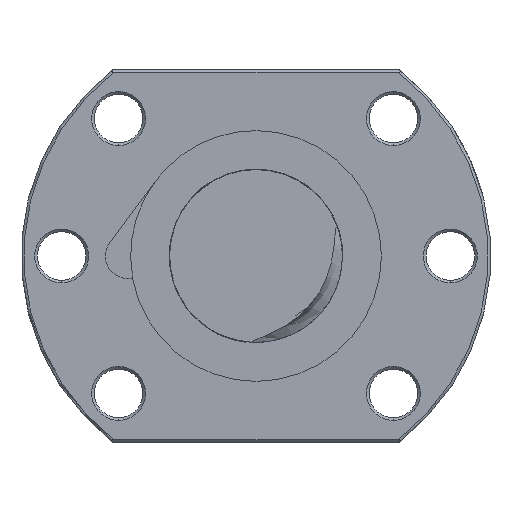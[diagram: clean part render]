
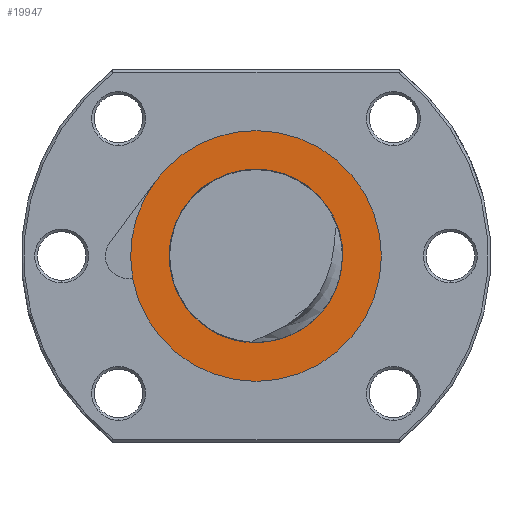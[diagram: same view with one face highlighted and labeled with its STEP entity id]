
A CAD part, left-side view. The second image highlights one B-rep face of the part: STEP entity #19947.
In plain terms, the highlighted planar face has unit normal (-1, 0, 0).
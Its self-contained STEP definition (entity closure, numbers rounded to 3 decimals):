
#19546 = VERTEX_POINT ( 'NONE', #21316 ) ;
#19548 = EDGE_CURVE ( 'NONE', #19546, #19549, #21315, .T. ) ;
#19549 = VERTEX_POINT ( 'NONE', #21355 ) ;
#19631 = EDGE_CURVE ( 'NONE', #19648, #19632, #21551, .T. ) ;
#19632 = VERTEX_POINT ( 'NONE', #21547 ) ;
#19646 = EDGE_CURVE ( 'NONE', #19647, #19648, #21588, .T. ) ;
#19647 = VERTEX_POINT ( 'NONE', #21583 ) ;
#19648 = VERTEX_POINT ( 'NONE', #21582 ) ;
#19814 = EDGE_CURVE ( 'NONE', #19815, #19647, #21860, .T. ) ;
#19815 = VERTEX_POINT ( 'NONE', #21856 ) ;
#19871 = ORIENTED_EDGE ( 'NONE', *, *, #19872, .F. ) ;
#19872 = EDGE_CURVE ( 'NONE', #19887, #19546, #21959, .T. ) ;
#19873 = ORIENTED_EDGE ( 'NONE', *, *, #19886, .F. ) ;
#19874 = EDGE_LOOP ( 'NONE', ( #19875, #19877, #19932, #19933 ) ) ;
#19875 = ORIENTED_EDGE ( 'NONE', *, *, #19876, .T. ) ;
#19876 = EDGE_CURVE ( 'NONE', #19632, #19815, #21987, .T. ) ;
#19877 = ORIENTED_EDGE ( 'NONE', *, *, #19814, .T. ) ;
#19886 = EDGE_CURVE ( 'NONE', #19549, #19887, #22048, .T. ) ;
#19887 = VERTEX_POINT ( 'NONE', #22049 ) ;
#19932 = ORIENTED_EDGE ( 'NONE', *, *, #19646, .T. ) ;
#19933 = ORIENTED_EDGE ( 'NONE', *, *, #19631, .T. ) ;
#19947 = ADVANCED_FACE ( 'NONE', ( #22217, #22216 ), #22215, .T. ) ;
#19948 = EDGE_LOOP ( 'NONE', ( #19949, #19871, #19873 ) ) ;
#19949 = ORIENTED_EDGE ( 'NONE', *, *, #19548, .F. ) ;
#21313 = DIRECTION ( 'NONE',  ( -1., 0., 0. ) ) ;
#21314 = AXIS2_PLACEMENT_3D ( 'NONE', #21318, #21313, #21356 ) ;
#21315 = CIRCLE ( 'NONE', #21314, 16.1 ) ;
#21316 = CARTESIAN_POINT ( 'NONE',  ( -87.8, -15.349, 4.86 ) ) ;
#21318 = CARTESIAN_POINT ( 'NONE',  ( -87.8, 0., 0. ) ) ;
#21355 = CARTESIAN_POINT ( 'NONE',  ( -87.8, 0., 16.1 ) ) ;
#21356 = DIRECTION ( 'NONE',  ( 0., 0., 1. ) ) ;
#21547 = CARTESIAN_POINT ( 'NONE',  ( -87.8, 18.649, 13.843 ) ) ;
#21548 = DIRECTION ( 'NONE',  ( 0., 0., 1. ) ) ;
#21549 = DIRECTION ( 'NONE',  ( -1., 0., 0. ) ) ;
#21550 = AXIS2_PLACEMENT_3D ( 'NONE', #21556, #21549, #21548 ) ;
#21551 = CIRCLE ( 'NONE', #21550, 23.225 ) ;
#21556 = CARTESIAN_POINT ( 'NONE',  ( -87.8, 0., 0. ) ) ;
#21582 = CARTESIAN_POINT ( 'NONE',  ( -87.8, 0., 23.225 ) ) ;
#21583 = CARTESIAN_POINT ( 'NONE',  ( -87.8, 0., -23.225 ) ) ;
#21584 = DIRECTION ( 'NONE',  ( 0., 0., 1. ) ) ;
#21585 = DIRECTION ( 'NONE',  ( -1., 0., 0. ) ) ;
#21586 = CARTESIAN_POINT ( 'NONE',  ( -87.8, 0., 0. ) ) ;
#21587 = AXIS2_PLACEMENT_3D ( 'NONE', #21586, #21585, #21584 ) ;
#21588 = CIRCLE ( 'NONE', #21587, 23.225 ) ;
#21856 = CARTESIAN_POINT ( 'NONE',  ( -87.8, 22.863, -4.085 ) ) ;
#21857 = DIRECTION ( 'NONE',  ( 0., 0., 1. ) ) ;
#21858 = DIRECTION ( 'NONE',  ( -1., 0., 0. ) ) ;
#21859 = AXIS2_PLACEMENT_3D ( 'NONE', #21865, #21858, #21857 ) ;
#21860 = CIRCLE ( 'NONE', #21859, 23.225 ) ;
#21865 = CARTESIAN_POINT ( 'NONE',  ( -87.8, 0., 0. ) ) ;
#21948 = CARTESIAN_POINT ( 'NONE',  ( -87.8, -2.035, -14.377 ) ) ;
#21949 = CARTESIAN_POINT ( 'NONE',  ( -87.8, -0.89, -14.794 ) ) ;
#21950 = CARTESIAN_POINT ( 'NONE',  ( -87.8, -0.313, -14.989 ) ) ;
#21951 = CARTESIAN_POINT ( 'NONE',  ( -87.8, 0.544, -15.303 ) ) ;
#21952 = CARTESIAN_POINT ( 'NONE',  ( -87.8, 0.829, -15.412 ) ) ;
#21953 = CARTESIAN_POINT ( 'NONE',  ( -87.8, 1.246, -15.598 ) ) ;
#21954 = CARTESIAN_POINT ( 'NONE',  ( -87.8, 1.384, -15.664 ) ) ;
#21955 = CARTESIAN_POINT ( 'NONE',  ( -87.8, 1.65, -15.811 ) ) ;
#21956 = CARTESIAN_POINT ( 'NONE',  ( -87.8, 1.779, -15.892 ) ) ;
#21957 = CARTESIAN_POINT ( 'NONE',  ( -87.8, 1.897, -15.988 ) ) ;
#21958 = CARTESIAN_POINT ( 'NONE',  ( -87.8, 0., 0. ) ) ;
#21959 = B_SPLINE_CURVE_WITH_KNOTS ( 'NONE', 3,
 ( #21957, #21956, #21955, #21954, #21953, #21952, #21951, #21950, #21949, #21948, #22018, #22017, #22016, #22015, #22014, #22013, #22012, #22011, #22010, #22009, #22008, #22007, #22006, #22005, #22004, #22003, #22002, #22001, #22000, #21999, #21998, #21997, #21996, #21995, #21994, #21993, #21992, #21991, #21990, #21989 ),
 .UNSPECIFIED., .F., .F.,
 ( 4, 2, 2, 2, 2, 2, 2, 2, 2, 2, 2, 2, 2, 2, 2, 2, 2, 2, 2, 4 ),
 ( 0.042, 0.042, 0.043, 0.044, 0.045, 0.047, 0.049, 0.053, 0.054, 0.055, 0.056, 0.06, 0.062, 0.064, 0.066, 0.067, 0.069, 0.07, 0.071, 0.071 ),
 .UNSPECIFIED. ) ;
#21984 = DIRECTION ( 'NONE',  ( 0., 0., 1. ) ) ;
#21985 = DIRECTION ( 'NONE',  ( -1., 0., 0. ) ) ;
#21986 = AXIS2_PLACEMENT_3D ( 'NONE', #21958, #21985, #21984 ) ;
#21987 = CIRCLE ( 'NONE', #21986, 23.225 ) ;
#21989 = CARTESIAN_POINT ( 'NONE',  ( -87.8, -15.349, 4.86 ) ) ;
#21990 = CARTESIAN_POINT ( 'NONE',  ( -87.8, -15.277, 4.724 ) ) ;
#21991 = CARTESIAN_POINT ( 'NONE',  ( -87.8, -15.222, 4.582 ) ) ;
#21992 = CARTESIAN_POINT ( 'NONE',  ( -87.8, -15.127, 4.293 ) ) ;
#21993 = CARTESIAN_POINT ( 'NONE',  ( -87.8, -15.088, 4.145 ) ) ;
#21994 = CARTESIAN_POINT ( 'NONE',  ( -87.8, -14.983, 3.7 ) ) ;
#21995 = CARTESIAN_POINT ( 'NONE',  ( -87.8, -14.93, 3.399 ) ) ;
#21996 = CARTESIAN_POINT ( 'NONE',  ( -87.8, -14.782, 2.496 ) ) ;
#21997 = CARTESIAN_POINT ( 'NONE',  ( -87.8, -14.698, 1.891 ) ) ;
#21998 = CARTESIAN_POINT ( 'NONE',  ( -87.8, -14.503, 0.686 ) ) ;
#21999 = CARTESIAN_POINT ( 'NONE',  ( -87.8, -14.392, 0.085 ) ) ;
#22000 = CARTESIAN_POINT ( 'NONE',  ( -87.8, -14.129, -1.103 ) ) ;
#22001 = CARTESIAN_POINT ( 'NONE',  ( -87.8, -13.977, -1.691 ) ) ;
#22002 = CARTESIAN_POINT ( 'NONE',  ( -87.8, -13.621, -2.851 ) ) ;
#22003 = CARTESIAN_POINT ( 'NONE',  ( -87.8, -13.418, -3.424 ) ) ;
#22004 = CARTESIAN_POINT ( 'NONE',  ( -87.8, -12.956, -4.551 ) ) ;
#22005 = CARTESIAN_POINT ( 'NONE',  ( -87.8, -12.696, -5.107 ) ) ;
#22006 = CARTESIAN_POINT ( 'NONE',  ( -87.8, -11.844, -6.711 ) ) ;
#22007 = CARTESIAN_POINT ( 'NONE',  ( -87.8, -11.177, -7.71 ) ) ;
#22008 = CARTESIAN_POINT ( 'NONE',  ( -87.8, -10.024, -9.1 ) ) ;
#22009 = CARTESIAN_POINT ( 'NONE',  ( -87.8, -9.614, -9.545 ) ) ;
#22010 = CARTESIAN_POINT ( 'NONE',  ( -87.8, -8.961, -10.185 ) ) ;
#22011 = CARTESIAN_POINT ( 'NONE',  ( -87.8, -8.736, -10.394 ) ) ;
#22012 = CARTESIAN_POINT ( 'NONE',  ( -87.8, -8.28, -10.797 ) ) ;
#22013 = CARTESIAN_POINT ( 'NONE',  ( -87.8, -8.048, -10.991 ) ) ;
#22014 = CARTESIAN_POINT ( 'NONE',  ( -87.8, -6.867, -11.932 ) ) ;
#22015 = CARTESIAN_POINT ( 'NONE',  ( -87.8, -5.858, -12.581 ) ) ;
#22016 = CARTESIAN_POINT ( 'NONE',  ( -87.8, -4.263, -13.421 ) ) ;
#22017 = CARTESIAN_POINT ( 'NONE',  ( -87.8, -3.717, -13.679 ) ) ;
#22018 = CARTESIAN_POINT ( 'NONE',  ( -87.8, -2.604, -14.157 ) ) ;
#22045 = DIRECTION ( 'NONE',  ( 0., 0., 1. ) ) ;
#22046 = DIRECTION ( 'NONE',  ( -1., 0., 0. ) ) ;
#22047 = AXIS2_PLACEMENT_3D ( 'NONE', #22051, #22046, #22045 ) ;
#22048 = CIRCLE ( 'NONE', #22047, 16.1 ) ;
#22049 = CARTESIAN_POINT ( 'NONE',  ( -87.8, 1.897, -15.988 ) ) ;
#22051 = CARTESIAN_POINT ( 'NONE',  ( -87.8, 0., 0. ) ) ;
#22211 = DIRECTION ( 'NONE',  ( 0., 0., 1. ) ) ;
#22212 = DIRECTION ( 'NONE',  ( -1., 0., 0. ) ) ;
#22213 = CARTESIAN_POINT ( 'NONE',  ( -87.8, 0., 16.1 ) ) ;
#22214 = AXIS2_PLACEMENT_3D ( 'NONE', #22213, #22212, #22211 ) ;
#22215 = PLANE ( 'NONE',  #22214 ) ;
#22216 = FACE_OUTER_BOUND ( 'NONE', #19874, .T. ) ;
#22217 = FACE_BOUND ( 'NONE', #19948, .T. ) ;
